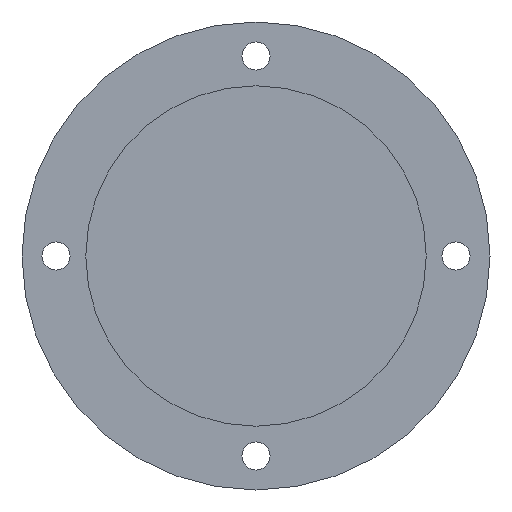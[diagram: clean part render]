
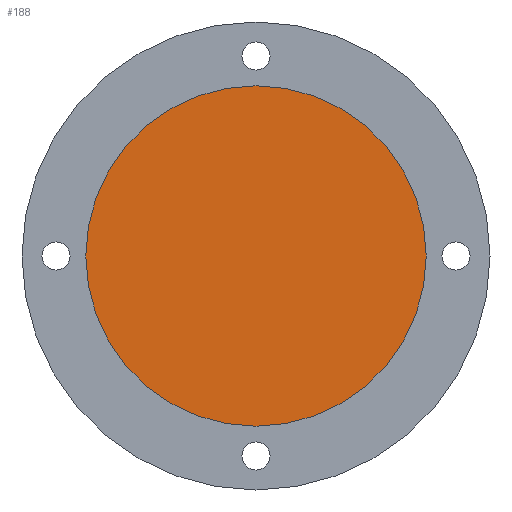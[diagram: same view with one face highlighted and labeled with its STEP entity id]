
A CAD part, front view. The second image highlights one B-rep face of the part: STEP entity #188.
In plain terms, the highlighted planar face has unit normal (0, -1, 0).
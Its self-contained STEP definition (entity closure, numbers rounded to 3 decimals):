
#8 = EDGE_CURVE ( 'NONE', #56, #196, #864, .T. ) ;
#56 = VERTEX_POINT ( 'NONE', #320 ) ;
#92 = EDGE_CURVE ( 'NONE', #196, #56, #402, .T. ) ;
#150 = EDGE_LOOP ( 'NONE', ( #158, #155 ) ) ;
#155 = ORIENTED_EDGE ( 'NONE', *, *, #8, .T. ) ;
#158 = ORIENTED_EDGE ( 'NONE', *, *, #92, .T. ) ;
#188 = ADVANCED_FACE ( 'NONE', ( #565 ), #510, .F. ) ;
#196 = VERTEX_POINT ( 'NONE', #548 ) ;
#320 = CARTESIAN_POINT ( 'NONE',  ( -40., 18., 0. ) ) ;
#387 = DIRECTION ( 'NONE',  ( 1., 0., 0. ) ) ;
#388 = DIRECTION ( 'NONE',  ( 0., -1., 0. ) ) ;
#389 = CARTESIAN_POINT ( 'NONE',  ( 0., 18., 0. ) ) ;
#391 = AXIS2_PLACEMENT_3D ( 'NONE', #389, #388, #387 ) ;
#402 = CIRCLE ( 'NONE', #391, 40. ) ;
#510 = PLANE ( 'NONE',  #511 ) ;
#511 = AXIS2_PLACEMENT_3D ( 'NONE', #557, #556, #555 ) ;
#548 = CARTESIAN_POINT ( 'NONE',  ( 40., 18., 0. ) ) ;
#555 = DIRECTION ( 'NONE',  ( -1., 0., 0. ) ) ;
#556 = DIRECTION ( 'NONE',  ( 0., 1., 0. ) ) ;
#557 = CARTESIAN_POINT ( 'NONE',  ( 0., 18., 0. ) ) ;
#565 = FACE_OUTER_BOUND ( 'NONE', #150, .T. ) ;
#862 = DIRECTION ( 'NONE',  ( 1., 0., 0. ) ) ;
#863 = DIRECTION ( 'NONE',  ( 0., -1., 0. ) ) ;
#864 = CIRCLE ( 'NONE', #865, 40. ) ;
#865 = AXIS2_PLACEMENT_3D ( 'NONE', #866, #863, #862 ) ;
#866 = CARTESIAN_POINT ( 'NONE',  ( 0., 18., 0. ) ) ;
